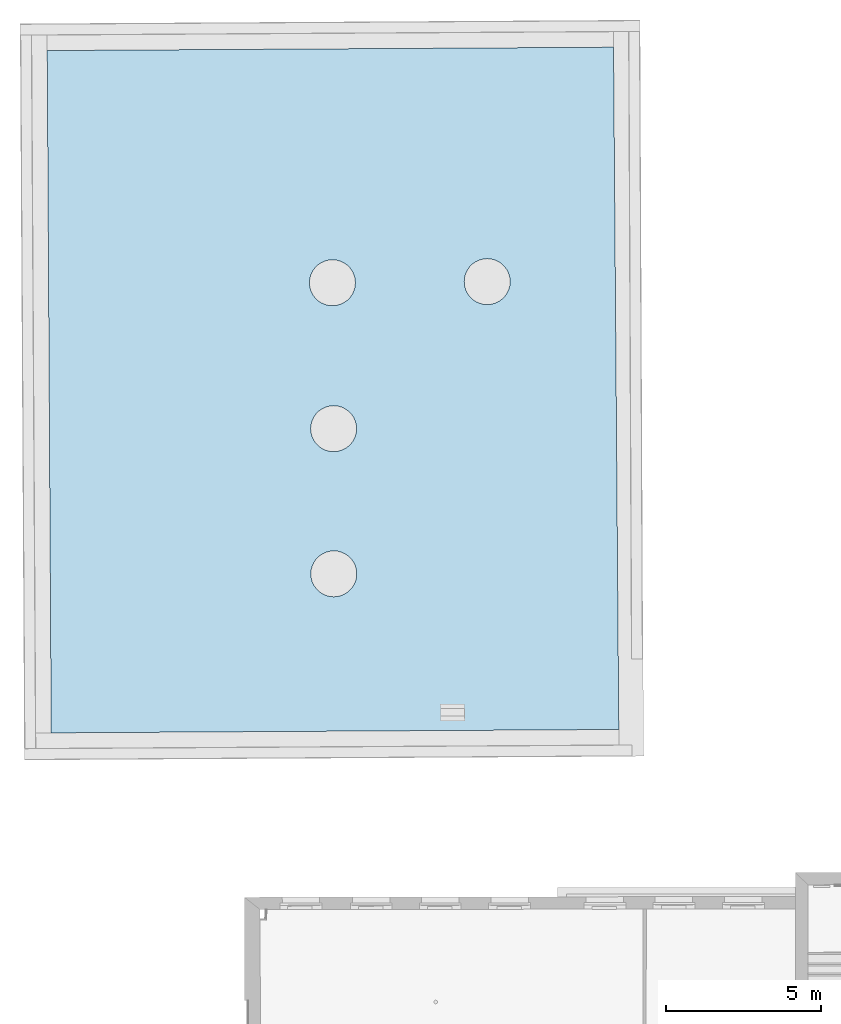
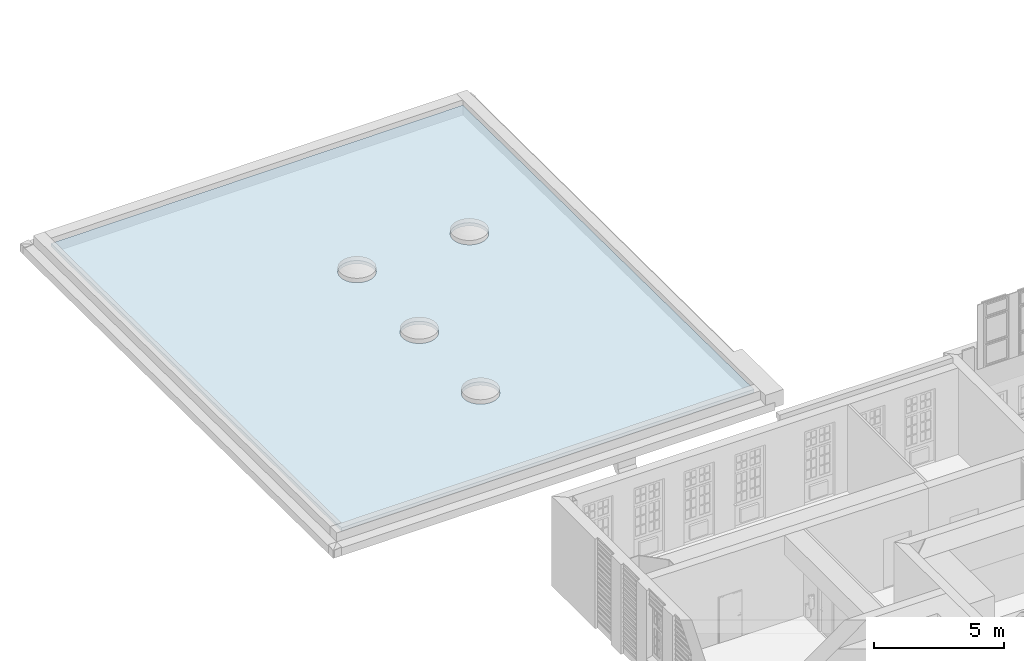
# One storey, part 5 of 90: 1 slab, 4 openings.
"""IFC2X3 building model written with IfcOpenShell, lengths in metres."""

from ifc_helpers import new_model, entity, si_unit, converted_unit, derived_unit, money_unit, direction, frame, origin_with_axes, place, context, subcontext, project, spatial, polyline, outline, extrude, material, layer, layer_set, layer_usage, type_object, element, save


model = new_model("IFC2X3")

# Units and contexts
model_context = context("Model", 3, precision=1e-05, world=origin_with_axes(), true_north=direction((0.0, 1.0)))
body_context = subcontext(model_context, "Body", "Model", "MODEL_VIEW")
ifc_project = project(units=[si_unit("LENGTHUNIT", "METRE"), si_unit("AREAUNIT", "SQUARE_METRE"), si_unit("VOLUMEUNIT", "CUBIC_METRE"), converted_unit("PLANEANGLEUNIT", "DEGREE", entity("IfcPlaneAngleMeasure", 0.0174532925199), si_unit("PLANEANGLEUNIT", "RADIAN"), dimensions=[0, 0, 0, 0, 0, 0, 0]), money_unit("EUR"), converted_unit("TIMEUNIT", "Year", entity("IfcTimeMeasure", 31556926.0), si_unit("TIMEUNIT", "SECOND"), dimensions=[0, 0, 1, 0, 0, 0, 0]), si_unit("MASSUNIT", "GRAM", prefix="KILO"), si_unit("THERMODYNAMICTEMPERATUREUNIT", "DEGREE_CELSIUS"), si_unit("LUMINOUSINTENSITYUNIT", "LUMEN"), si_unit("ENERGYUNIT", "JOULE", prefix="MEGA"), derived_unit("THERMALCONDUCTANCEUNIT", [(si_unit("POWERUNIT", "WATT"), 1), (si_unit("LENGTHUNIT", "METRE"), -1), (si_unit("THERMODYNAMICTEMPERATUREUNIT", "KELVIN"), -1)]), derived_unit("SPECIFICHEATCAPACITYUNIT", [(si_unit("ENERGYUNIT", "JOULE"), 1), (si_unit("MASSUNIT", "GRAM", prefix="KILO"), -1), (si_unit("THERMODYNAMICTEMPERATUREUNIT", "KELVIN"), -1)]), derived_unit("MASSDENSITYUNIT", [(si_unit("MASSUNIT", "GRAM", prefix="KILO"), 1), (si_unit("VOLUMEUNIT", "CUBIC_METRE"), -1)])], contexts=[model_context])

# Site, building, storey
site_placement = place(None, origin_with_axes())
site = spatial("IfcSite", under=ifc_project, at=site_placement, Name="Gelände", CompositionType="ELEMENT")
building_placement = place(site_placement, origin_with_axes())
building = spatial("IfcBuilding", under=site, at=building_placement, Name="Gebäude", CompositionType="ELEMENT")
storey_placement = place(building_placement, frame((0.0, 0.0, 3.7), z_axis=(0.0, 0.0, 1.0), x_axis=(1.0, 0.0, 0.0)))
storey = spatial("IfcBuildingStorey", under=building, at=storey_placement, Name="1.OBERGESCHOSS", CompositionType="ELEMENT", Elevation=3.7)

# Slab, openings
ifc_material = material(Name="05_ALLGEMEIN - TRAGENDE BAUTEILE")
ifc_layer = layer(ifc_material, 0.15, ventilated="UNKNOWN")
ifc_layer_set = layer_set([ifc_layer], Name="05_ALLGEMEIN - TRAGENDE BAUTEILE 0.15")
ifc_layer_usage = layer_usage(ifc_layer_set, "AXIS3", "NEGATIVE", 0.15)
slab_type = type_object("IfcSlabType", Name="05_ALLGEMEIN - TRAGENDE BAUTEILE 150", PredefinedType="ROOF")
slab_placement = place(storey_placement, frame((-31.2486818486, 31.3626002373, 1.42346233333), z_axis=(0.0, 0.0, 1.0), x_axis=(0.99998208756, 0.00598536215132, 0.0)))
slab = element("IfcSlab", 1, at=slab_placement, inside=storey, type_object=slab_type, material=ifc_layer_usage, Name="Dach-013", PredefinedType="ROOF", context=body_context, shape_type="SweptSolid", body=[
    extrude(outline(polyline([(-3.06894464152, 0.0), (15.2889713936, 0.0), (15.2507573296, 22.0672117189), (-3.06628217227, 22.0686367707), (-3.06894464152, 0.0)])), origin_with_axes(), (0.0, 0.0, 1.0), 0.15),
])
opening_1_placement = place(slab_placement, frame((6.11964231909, 9.04075879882, 1.57346233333), z_axis=(0.0, 0.0, 1.0), x_axis=(1.0, 0.0, 0.0)))
element("IfcOpeningElement", 2, at=opening_1_placement, cuts=slab, Name="Dachfenster-001", ObjectType="Recess", context=body_context, shape_type="SweptSolid", body=[
    extrude(outline(polyline([(0.0, 0.0), (0.0112820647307, -0.128954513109), (0.0447854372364, -0.253990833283), (0.0994921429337, -0.37130974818), (0.173739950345, -0.477346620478), (0.265272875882, -0.568879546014), (0.37130974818, -0.643127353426), (0.488628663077, -0.697834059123), (0.613664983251, -0.731337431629), (0.742619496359, -0.742619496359), (0.871574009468, -0.731337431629), (0.996610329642, -0.697834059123), (1.11392924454, -0.643127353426), (1.21996611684, -0.568879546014), (1.31149904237, -0.477346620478), (1.38574684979, -0.37130974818), (1.44045355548, -0.253990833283), (1.47395692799, -0.128954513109), (1.48523899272, 0.0), (1.47395692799, 0.128954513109), (1.44045355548, 0.253990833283), (1.38574684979, 0.37130974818), (1.31149904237, 0.477346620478), (1.21996611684, 0.568879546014), (1.11392924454, 0.643127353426), (0.996610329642, 0.697834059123), (0.871574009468, 0.731337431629), (0.742619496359, 0.742619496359), (0.613664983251, 0.731337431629), (0.488628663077, 0.697834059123), (0.37130974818, 0.643127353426), (0.265272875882, 0.568879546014), (0.173739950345, 0.477346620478), (0.0994921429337, 0.37130974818), (0.0447854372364, 0.253990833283), (0.0112820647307, 0.128954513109), (0.0, 0.0)])), frame((0.0, 0.0, -1.57446233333), z_axis=(0.0, 0.0, 1.0), x_axis=(0.00598536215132, 0.99998208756, 0.0)), (0.0, 0.0, 1.0), 0.151),
    extrude(outline(polyline([(-1.48523899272, 0.0), (-1.47395692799, -0.128954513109), (-1.44045355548, -0.253990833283), (-1.38574684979, -0.37130974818), (-1.31149904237, -0.477346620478), (-1.21996611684, -0.568879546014), (-1.11392924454, -0.643127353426), (-0.996610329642, -0.697834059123), (-0.871574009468, -0.731337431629), (-0.742619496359, -0.742619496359), (-0.613664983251, -0.731337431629), (-0.488628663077, -0.697834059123), (-0.37130974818, -0.643127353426), (-0.265272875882, -0.568879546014), (-0.173739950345, -0.477346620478), (-0.0994921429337, -0.37130974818), (-0.0447854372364, -0.253990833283), (-0.0112820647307, -0.128954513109), (0.0, 0.0), (-0.0112820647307, 0.128954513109), (-0.0447854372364, 0.253990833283), (-0.0994921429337, 0.37130974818), (-0.173739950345, 0.477346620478), (-0.265272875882, 0.568879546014), (-0.37130974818, 0.643127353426), (-0.488628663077, 0.697834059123), (-0.613664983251, 0.731337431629), (-0.742619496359, 0.742619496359), (-0.871574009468, 0.731337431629), (-0.996610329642, 0.697834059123), (-1.11392924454, 0.643127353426), (-1.21996611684, 0.568879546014), (-1.31149904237, 0.477346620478), (-1.38574684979, 0.37130974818), (-1.44045355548, 0.253990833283), (-1.47395692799, 0.128954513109), (-1.48523899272, 0.0)])), frame((0.0, 0.0, -1.42246233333), z_axis=(0.0, 0.0, -1.0), x_axis=(-0.00598536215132, -0.99998208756, 0.0)), (0.0, 0.0, 1.0), 0.001),
])
opening_2_placement = place(slab_placement, frame((6.10873577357, 13.7608981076, 1.57346233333), z_axis=(0.0, 0.0, 1.0), x_axis=(1.0, 0.0, 0.0)))
element("IfcOpeningElement", 3, at=opening_2_placement, cuts=slab, Name="Dachfenster-001", ObjectType="Recess", context=body_context, shape_type="SweptSolid", body=[
    extrude(outline(polyline([(0.0, 0.0), (0.0112802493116, -0.128933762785), (0.0447782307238, -0.25394996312), (0.0994761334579, -0.37125), (0.173711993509, -0.477269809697), (0.265230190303, -0.568788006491), (0.37125, -0.643023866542), (0.48855003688, -0.697721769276), (0.613566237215, -0.731219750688), (0.7425, -0.7425), (0.871433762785, -0.731219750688), (0.99644996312, -0.697721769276), (1.11375, -0.643023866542), (1.2197698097, -0.568788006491), (1.31128800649, -0.477269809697), (1.38552386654, -0.37125), (1.44022176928, -0.25394996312), (1.47371975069, -0.128933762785), (1.485, 0.0), (1.47371975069, 0.128933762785), (1.44022176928, 0.25394996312), (1.38552386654, 0.37125), (1.31128800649, 0.477269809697), (1.2197698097, 0.568788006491), (1.11375, 0.643023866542), (0.99644996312, 0.697721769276), (0.871433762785, 0.731219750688), (0.7425, 0.7425), (0.613566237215, 0.731219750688), (0.48855003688, 0.697721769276), (0.37125, 0.643023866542), (0.265230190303, 0.568788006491), (0.173711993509, 0.477269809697), (0.0994761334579, 0.37125), (0.0447782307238, 0.25394996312), (0.0112802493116, 0.128933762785), (0.0, 0.0)])), frame((0.0, 0.0, -1.57446233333), z_axis=(0.0, 0.0, 1.0), x_axis=(0.00598536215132, 0.99998208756, 0.0)), (0.0, 0.0, 1.0), 0.151),
    extrude(outline(polyline([(-1.485, 0.0), (-1.47371975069, -0.128933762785), (-1.44022176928, -0.25394996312), (-1.38552386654, -0.37125), (-1.31128800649, -0.477269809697), (-1.2197698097, -0.568788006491), (-1.11375, -0.643023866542), (-0.99644996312, -0.697721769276), (-0.871433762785, -0.731219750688), (-0.7425, -0.7425), (-0.613566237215, -0.731219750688), (-0.48855003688, -0.697721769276), (-0.37125, -0.643023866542), (-0.265230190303, -0.568788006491), (-0.173711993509, -0.477269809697), (-0.0994761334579, -0.37125), (-0.0447782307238, -0.25394996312), (-0.0112802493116, -0.128933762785), (0.0, 0.0), (-0.0112802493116, 0.128933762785), (-0.0447782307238, 0.25394996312), (-0.0994761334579, 0.37125), (-0.173711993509, 0.477269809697), (-0.265230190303, 0.568788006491), (-0.37125, 0.643023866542), (-0.48855003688, 0.697721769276), (-0.613566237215, 0.731219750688), (-0.7425, 0.7425), (-0.871433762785, 0.731219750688), (-0.99644996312, 0.697721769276), (-1.11375, 0.643023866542), (-1.2197698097, 0.568788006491), (-1.31128800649, 0.477269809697), (-1.38552386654, 0.37125), (-1.44022176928, 0.25394996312), (-1.47371975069, 0.128933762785), (-1.485, 0.0)])), frame((0.0, 0.0, -1.42246233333), z_axis=(0.0, 0.0, -1.0), x_axis=(-0.00598536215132, -0.99998208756, 0.0)), (0.0, 0.0, 1.0), 0.001),
])
opening_3_placement = place(slab_placement, frame((11.1139988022, 13.7669136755, 1.57346233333), z_axis=(0.0, 0.0, 1.0), x_axis=(1.0, 0.0, 0.0)))
element("IfcOpeningElement", 4, at=opening_3_placement, cuts=slab, Name="Dachfenster-001", ObjectType="Recess", context=body_context, shape_type="SweptSolid", body=[
    extrude(outline(polyline([(0.0, 0.0), (0.0112802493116, -0.128933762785), (0.0447782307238, -0.25394996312), (0.0994761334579, -0.37125), (0.173711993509, -0.477269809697), (0.265230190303, -0.568788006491), (0.37125, -0.643023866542), (0.48855003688, -0.697721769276), (0.613566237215, -0.731219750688), (0.7425, -0.7425), (0.871433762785, -0.731219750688), (0.99644996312, -0.697721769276), (1.11375, -0.643023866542), (1.2197698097, -0.568788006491), (1.31128800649, -0.477269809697), (1.38552386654, -0.37125), (1.44022176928, -0.25394996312), (1.47371975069, -0.128933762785), (1.485, 0.0), (1.47371975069, 0.128933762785), (1.44022176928, 0.25394996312), (1.38552386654, 0.37125), (1.31128800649, 0.477269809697), (1.2197698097, 0.568788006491), (1.11375, 0.643023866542), (0.99644996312, 0.697721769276), (0.871433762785, 0.731219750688), (0.7425, 0.7425), (0.613566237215, 0.731219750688), (0.48855003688, 0.697721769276), (0.37125, 0.643023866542), (0.265230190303, 0.568788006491), (0.173711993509, 0.477269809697), (0.0994761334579, 0.37125), (0.0447782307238, 0.25394996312), (0.0112802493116, 0.128933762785), (0.0, 0.0)])), frame((0.0, 0.0, -1.57446233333), z_axis=(0.0, 0.0, 1.0), x_axis=(0.00598536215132, 0.99998208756, 0.0)), (0.0, 0.0, 1.0), 0.151),
    extrude(outline(polyline([(-1.485, 0.0), (-1.47371975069, -0.128933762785), (-1.44022176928, -0.25394996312), (-1.38552386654, -0.37125), (-1.31128800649, -0.477269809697), (-1.2197698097, -0.568788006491), (-1.11375, -0.643023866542), (-0.99644996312, -0.697721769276), (-0.871433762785, -0.731219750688), (-0.7425, -0.7425), (-0.613566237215, -0.731219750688), (-0.48855003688, -0.697721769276), (-0.37125, -0.643023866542), (-0.265230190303, -0.568788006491), (-0.173711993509, -0.477269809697), (-0.0994761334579, -0.37125), (-0.0447782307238, -0.25394996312), (-0.0112802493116, -0.128933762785), (0.0, 0.0), (-0.0112802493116, 0.128933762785), (-0.0447782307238, 0.25394996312), (-0.0994761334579, 0.37125), (-0.173711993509, 0.477269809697), (-0.265230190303, 0.568788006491), (-0.37125, 0.643023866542), (-0.48855003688, 0.697721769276), (-0.613566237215, 0.731219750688), (-0.7425, 0.7425), (-0.871433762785, 0.731219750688), (-0.99644996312, 0.697721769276), (-1.11375, 0.643023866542), (-1.2197698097, 0.568788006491), (-1.31128800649, 0.477269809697), (-1.38552386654, 0.37125), (-1.44022176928, 0.25394996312), (-1.47371975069, 0.128933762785), (-1.485, 0.0)])), frame((0.0, 0.0, -1.42246233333), z_axis=(0.0, 0.0, -1.0), x_axis=(-0.00598536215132, -0.99998208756, 0.0)), (0.0, 0.0, 1.0), 0.001),
])
opening_4_placement = place(slab_placement, frame((6.09705263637, 4.3465792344, 1.57346233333), z_axis=(0.0, 0.0, 1.0), x_axis=(1.0, 0.0, 0.0)))
element("IfcOpeningElement", 5, at=opening_4_placement, cuts=slab, Name="Dachfenster-001", ObjectType="Recess", context=body_context, shape_type="SweptSolid", body=[
    extrude(outline(polyline([(0.0, 0.0), (0.0112802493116, -0.128933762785), (0.0447782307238, -0.25394996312), (0.0994761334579, -0.37125), (0.173711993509, -0.477269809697), (0.265230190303, -0.568788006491), (0.37125, -0.643023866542), (0.48855003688, -0.697721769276), (0.613566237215, -0.731219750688), (0.7425, -0.7425), (0.871433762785, -0.731219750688), (0.99644996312, -0.697721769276), (1.11375, -0.643023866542), (1.2197698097, -0.568788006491), (1.31128800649, -0.477269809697), (1.38552386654, -0.37125), (1.44022176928, -0.25394996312), (1.47371975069, -0.128933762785), (1.485, 0.0), (1.47371975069, 0.128933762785), (1.44022176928, 0.25394996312), (1.38552386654, 0.37125), (1.31128800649, 0.477269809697), (1.2197698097, 0.568788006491), (1.11375, 0.643023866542), (0.99644996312, 0.697721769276), (0.871433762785, 0.731219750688), (0.7425, 0.7425), (0.613566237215, 0.731219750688), (0.48855003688, 0.697721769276), (0.37125, 0.643023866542), (0.265230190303, 0.568788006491), (0.173711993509, 0.477269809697), (0.0994761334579, 0.37125), (0.0447782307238, 0.25394996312), (0.0112802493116, 0.128933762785), (0.0, 0.0)])), frame((0.0, 0.0, -1.57446233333), z_axis=(0.0, 0.0, 1.0), x_axis=(0.00598536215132, 0.99998208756, 0.0)), (0.0, 0.0, 1.0), 0.151),
    extrude(outline(polyline([(-1.485, 0.0), (-1.47371975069, -0.128933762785), (-1.44022176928, -0.25394996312), (-1.38552386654, -0.37125), (-1.31128800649, -0.477269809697), (-1.2197698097, -0.568788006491), (-1.11375, -0.643023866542), (-0.99644996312, -0.697721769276), (-0.871433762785, -0.731219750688), (-0.7425, -0.7425), (-0.613566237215, -0.731219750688), (-0.48855003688, -0.697721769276), (-0.37125, -0.643023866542), (-0.265230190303, -0.568788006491), (-0.173711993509, -0.477269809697), (-0.0994761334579, -0.37125), (-0.0447782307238, -0.25394996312), (-0.0112802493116, -0.128933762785), (0.0, 0.0), (-0.0112802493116, 0.128933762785), (-0.0447782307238, 0.25394996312), (-0.0994761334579, 0.37125), (-0.173711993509, 0.477269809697), (-0.265230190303, 0.568788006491), (-0.37125, 0.643023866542), (-0.48855003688, 0.697721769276), (-0.613566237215, 0.731219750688), (-0.7425, 0.7425), (-0.871433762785, 0.731219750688), (-0.99644996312, 0.697721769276), (-1.11375, 0.643023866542), (-1.2197698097, 0.568788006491), (-1.31128800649, 0.477269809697), (-1.38552386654, 0.37125), (-1.44022176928, 0.25394996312), (-1.47371975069, 0.128933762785), (-1.485, 0.0)])), frame((0.0, 0.0, -1.42246233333), z_axis=(0.0, 0.0, -1.0), x_axis=(-0.00598536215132, -0.99998208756, 0.0)), (0.0, 0.0, 1.0), 0.001),
])

save(model, "model.ifc")
